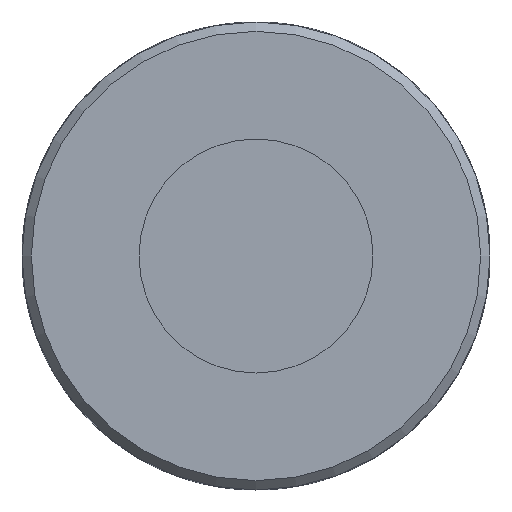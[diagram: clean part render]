
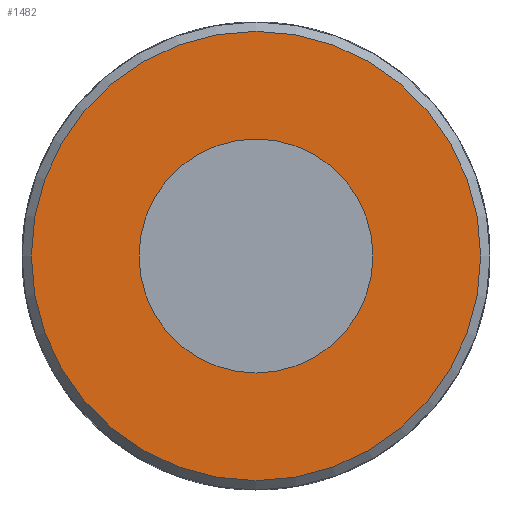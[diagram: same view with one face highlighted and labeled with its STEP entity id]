
A CAD part, front view. The second image highlights one B-rep face of the part: STEP entity #1482.
In plain terms, the highlighted planar face has unit normal (0, -1, 0).
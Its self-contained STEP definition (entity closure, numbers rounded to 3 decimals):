
#200=PLANE('',#1633);
#334=FACE_BOUND('',#543,.T.);
#412=FACE_OUTER_BOUND('',#542,.T.);
#542=EDGE_LOOP('',(#1295));
#543=EDGE_LOOP('',(#1296));
#626=CIRCLE('',#1628,12.5);
#628=CIRCLE('',#1631,24.);
#754=VERTEX_POINT('',#2913);
#756=VERTEX_POINT('',#2918);
#939=EDGE_CURVE('',#754,#754,#626,.T.);
#941=EDGE_CURVE('',#756,#756,#628,.T.);
#1295=ORIENTED_EDGE('',*,*,#941,.F.);
#1296=ORIENTED_EDGE('',*,*,#939,.T.);
#1482=ADVANCED_FACE('',(#412,#334),#200,.F.);
#1628=AXIS2_PLACEMENT_3D('',#2914,#1954,#1955);
#1631=AXIS2_PLACEMENT_3D('',#2919,#1960,#1961);
#1633=AXIS2_PLACEMENT_3D('',#3127,#1968,#1969);
#1954=DIRECTION('center_axis',(0.,1.,0.));
#1955=DIRECTION('ref_axis',(-1.,0.,0.));
#1960=DIRECTION('center_axis',(0.,1.,0.));
#1961=DIRECTION('ref_axis',(1.,0.,0.));
#1968=DIRECTION('center_axis',(0.,1.,0.));
#1969=DIRECTION('ref_axis',(0.,0.,1.));
#2913=CARTESIAN_POINT('',(12.5,-66.5,0.));
#2914=CARTESIAN_POINT('Origin',(0.,-66.5,0.));
#2918=CARTESIAN_POINT('',(-24.,-66.5,0.));
#2919=CARTESIAN_POINT('Origin',(0.,-66.5,0.));
#3127=CARTESIAN_POINT('Origin',(0.,-66.5,0.));
